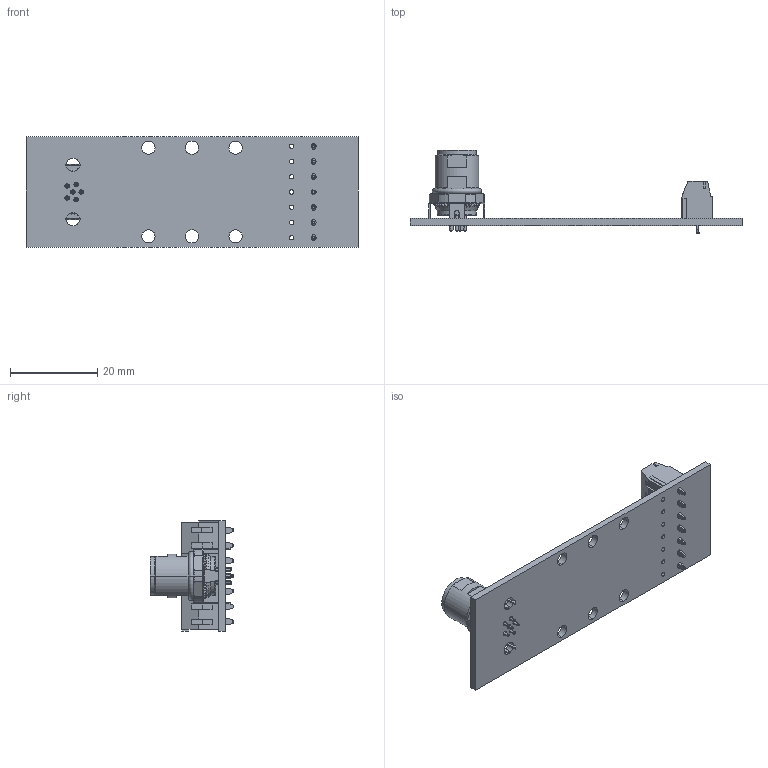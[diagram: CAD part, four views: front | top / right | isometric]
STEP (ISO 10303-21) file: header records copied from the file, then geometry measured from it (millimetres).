
FILE_DESCRIPTION (( 'STEP AP214' ), '1' );
FILE_NAME ('brkm8a-6fs-n_rev_a.step', '2025-05-19T16:52:10', ( '' ), ( '' ), 'SwSTEP 2.0', 'SolidWorks 2018', '' );
FILE_SCHEMA (( 'AUTOMOTIVE_DESIGN' ));
Length unit declared in the file: inch
Products named in the file (5): M8 Female 6 Pin A code Connector_M8 Female 6 Pin A code Connector; brkm8a-6fs-n_rev_a; Screw Terminal 2; Screw Terminal 3; brkm8a-6fs_pcb
Assembly tree (5 placements, depth 2):
  brkm8a-6fs-n_rev_a
    brkm8a-6fs_pcb
    M8 Female 6 Pin A code Connector_M8 Female 6 Pin A code Connector
    Screw Terminal 2  x2
    Screw Terminal 3
Bounding box: 76.2 x 19.2 x 25.41 mm (x, y, z)
Volume: 4049.9 mm3; surface area: 7160.1 mm2
Topology: 2 solids, 12 shells, 2163 faces, 5916 edges, 3908 vertices
Faces by surface type: plane 1362, cylinder 403, bspline 299, cone 67, torus 30, sphere 2
Entity records: 100093 total; most frequent: CARTESIAN_POINT 30890, ORIENTED_EDGE 10770, DIRECTION 8556, EDGE_CURVE 5395, LINE 3652, VECTOR 3652, VERTEX_POINT 3567, AXIS2_PLACEMENT_3D 2452
